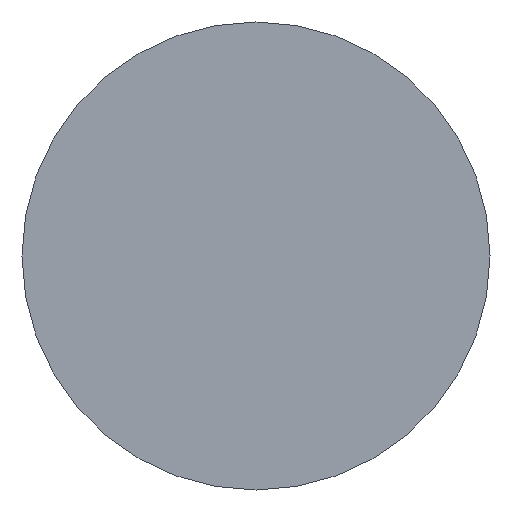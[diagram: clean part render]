
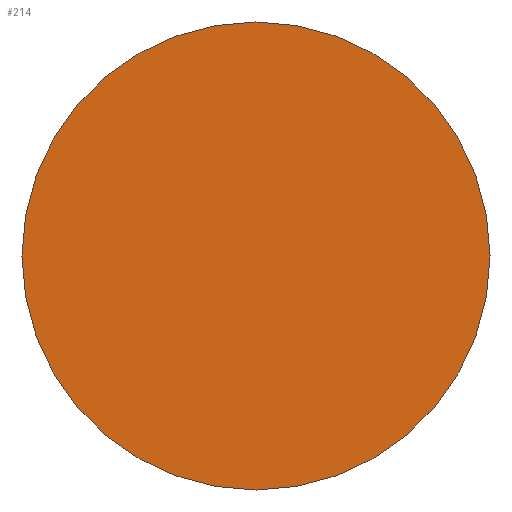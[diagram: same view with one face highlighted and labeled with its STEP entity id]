
A CAD part, left-side view. The second image highlights one B-rep face of the part: STEP entity #214.
In plain terms, the highlighted planar face has unit normal (-1, 0, 0).
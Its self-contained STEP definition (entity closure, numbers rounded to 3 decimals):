
#5 = CARTESIAN_POINT ( 'NONE',  ( 0., 0., 0. ) ) ;
#27 = DIRECTION ( 'NONE',  ( 1., 0., 0. ) ) ;
#44 = DIRECTION ( 'NONE',  ( 0., 1., 0. ) ) ;
#45 = EDGE_CURVE ( 'NONE', #104, #75, #176, .T. ) ;
#53 = ORIENTED_EDGE ( 'NONE', *, *, #135, .F. ) ;
#55 = AXIS2_PLACEMENT_3D ( 'NONE', #241, #200, #261 ) ;
#75 = VERTEX_POINT ( 'NONE', #120 ) ;
#97 = DIRECTION ( 'NONE',  ( -1., 0., 0. ) ) ;
#103 = ORIENTED_EDGE ( 'NONE', *, *, #45, .F. ) ;
#104 = VERTEX_POINT ( 'NONE', #272 ) ;
#112 = PLANE ( 'NONE',  #211 ) ;
#120 = CARTESIAN_POINT ( 'NONE',  ( 0., 9., 0. ) ) ;
#129 = FACE_OUTER_BOUND ( 'NONE', #208, .T. ) ;
#135 = EDGE_CURVE ( 'NONE', #75, #104, #237, .T. ) ;
#169 = AXIS2_PLACEMENT_3D ( 'NONE', #259, #27, #44 ) ;
#176 = CIRCLE ( 'NONE', #55, 9. ) ;
#200 = DIRECTION ( 'NONE',  ( 1., 0., 0. ) ) ;
#208 = EDGE_LOOP ( 'NONE', ( #53, #103 ) ) ;
#211 = AXIS2_PLACEMENT_3D ( 'NONE', #5, #97, #268 ) ;
#214 = ADVANCED_FACE ( 'NONE', ( #129 ), #112, .T. ) ;
#237 = CIRCLE ( 'NONE', #169, 9. ) ;
#241 = CARTESIAN_POINT ( 'NONE',  ( 0., 0., 0. ) ) ;
#259 = CARTESIAN_POINT ( 'NONE',  ( 0., 0., 0. ) ) ;
#261 = DIRECTION ( 'NONE',  ( 0., 1., 0. ) ) ;
#268 = DIRECTION ( 'NONE',  ( 0., -1., 0. ) ) ;
#272 = CARTESIAN_POINT ( 'NONE',  ( 0., -9., 0. ) ) ;
